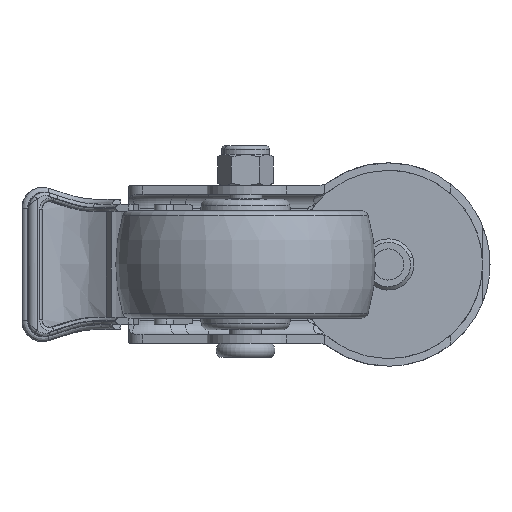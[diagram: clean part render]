
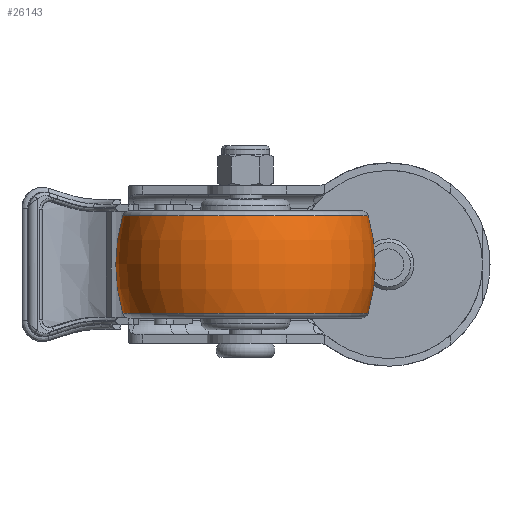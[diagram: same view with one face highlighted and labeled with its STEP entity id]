
A CAD part, front view. The second image highlights one B-rep face of the part: STEP entity #26143.
In plain terms, the highlighted toroidal (fillet/blend) face has major radius 11.8 mm and minor radius 49.3 mm.
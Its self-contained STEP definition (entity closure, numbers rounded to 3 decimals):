
#170 = ORIENTED_EDGE ( 'NONE', *, *, #16396, .T. ) ;
#272 = AXIS2_PLACEMENT_3D ( 'NONE', #16617, #28224, #28527 ) ;
#1949 = VERTEX_POINT ( 'NONE', #3899 ) ;
#2041 = EDGE_CURVE ( 'NONE', #1949, #9305, #2556, .T. ) ;
#2556 = CIRCLE ( 'NONE', #5445, 35.449 ) ;
#3899 = CARTESIAN_POINT ( 'NONE',  ( -5.851, -97.3, -14.071 ) ) ;
#4052 = DIRECTION ( 'NONE',  ( 0., 0., -1. ) ) ;
#4724 = ORIENTED_EDGE ( 'NONE', *, *, #2041, .F. ) ;
#5445 = AXIS2_PLACEMENT_3D ( 'NONE', #8432, #4052, #8724 ) ;
#6859 = CARTESIAN_POINT ( 'NONE',  ( -53.1, -97.3, 0. ) ) ;
#6879 = CIRCLE ( 'NONE', #10747, 49.3 ) ;
#8432 = CARTESIAN_POINT ( 'NONE',  ( -41.3, -97.3, -14.071 ) ) ;
#8724 = DIRECTION ( 'NONE',  ( -1., 0., 0. ) ) ;
#8817 = DIRECTION ( 'NONE',  ( 0., -1., 0. ) ) ;
#8878 = CARTESIAN_POINT ( 'NONE',  ( -41.3, -97.3, 0. ) ) ;
#9305 = VERTEX_POINT ( 'NONE', #25536 ) ;
#10450 = VERTEX_POINT ( 'NONE', #29539 ) ;
#10747 = AXIS2_PLACEMENT_3D ( 'NONE', #6859, #11544, #16089 ) ;
#10996 = FACE_OUTER_BOUND ( 'NONE', #19880, .T. ) ;
#11544 = DIRECTION ( 'NONE',  ( 0., 1., 0. ) ) ;
#11554 = VERTEX_POINT ( 'NONE', #15515 ) ;
#12654 = AXIS2_PLACEMENT_3D ( 'NONE', #8878, #24891, #13414 ) ;
#13414 = DIRECTION ( 'NONE',  ( -1., 0., 0. ) ) ;
#15515 = CARTESIAN_POINT ( 'NONE',  ( -76.749, -97.3, 14.071 ) ) ;
#16089 = DIRECTION ( 'NONE',  ( -1., 0., 0. ) ) ;
#16396 = EDGE_CURVE ( 'NONE', #10450, #11554, #23383, .T. ) ;
#16617 = CARTESIAN_POINT ( 'NONE',  ( -41.3, -97.3, 14.071 ) ) ;
#19880 = EDGE_LOOP ( 'NONE', ( #24933, #170, #29304, #4724 ) ) ;
#22008 = EDGE_CURVE ( 'NONE', #10450, #1949, #6879, .T. ) ;
#22093 = CIRCLE ( 'NONE', #25954, 49.3 ) ;
#23383 = CIRCLE ( 'NONE', #272, 35.449 ) ;
#24891 = DIRECTION ( 'NONE',  ( 0., 0., -1. ) ) ;
#24933 = ORIENTED_EDGE ( 'NONE', *, *, #22008, .F. ) ;
#24975 = DIRECTION ( 'NONE',  ( 0., 0., -1. ) ) ;
#25536 = CARTESIAN_POINT ( 'NONE',  ( -76.749, -97.3, -14.071 ) ) ;
#25671 = TOROIDAL_SURFACE ( 'NONE', #12654, -11.8, 49.3 ) ;
#25954 = AXIS2_PLACEMENT_3D ( 'NONE', #26806, #8817, #24975 ) ;
#26143 = ADVANCED_FACE ( 'NONE', ( #10996 ), #25671, .T. ) ;
#26806 = CARTESIAN_POINT ( 'NONE',  ( -29.5, -97.3, 0. ) ) ;
#28224 = DIRECTION ( 'NONE',  ( 0., 0., -1. ) ) ;
#28527 = DIRECTION ( 'NONE',  ( -1., 0., 0. ) ) ;
#28560 = EDGE_CURVE ( 'NONE', #11554, #9305, #22093, .T. ) ;
#29304 = ORIENTED_EDGE ( 'NONE', *, *, #28560, .T. ) ;
#29539 = CARTESIAN_POINT ( 'NONE',  ( -5.851, -97.3, 14.071 ) ) ;
